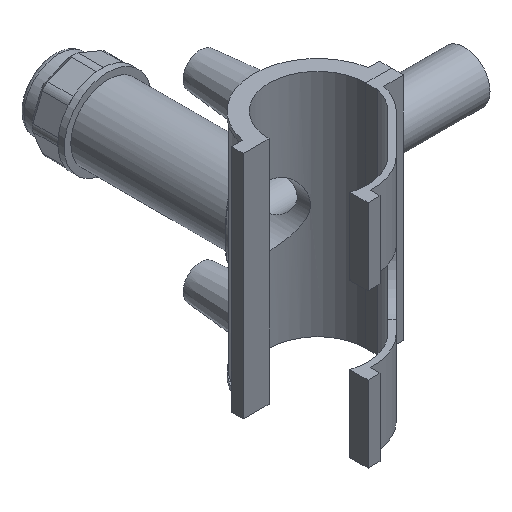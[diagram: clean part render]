
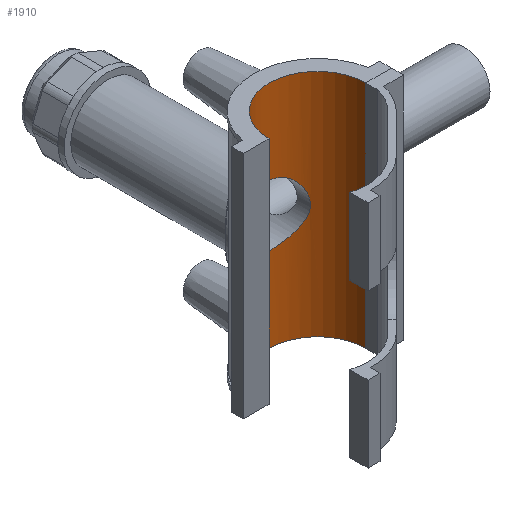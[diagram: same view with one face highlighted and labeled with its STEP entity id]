
A CAD part, isometric view. The second image highlights one B-rep face of the part: STEP entity #1910.
In plain terms, the highlighted cylindrical face has radius 21.05 mm (diameter 42.1 mm), a partial arc.
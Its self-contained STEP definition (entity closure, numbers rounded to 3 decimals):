
#114=FACE_BOUND('',#312,.T.);
#195=FACE_OUTER_BOUND('',#311,.T.);
#311=EDGE_LOOP('',(#1638,#1639,#1640,#1641));
#312=EDGE_LOOP('',(#1642,#1643));
#342=B_SPLINE_CURVE_WITH_KNOTS('',3,(#2735,#2736,#2737,#2738,#2739,#2740,
#2741,#2742,#2743,#2744,#2745,#2746,#2747,#2748,#2749,#2750,#2751,#2752,
#2753,#2754,#2755,#2756,#2757,#2758,#2759,#2760,#2761,#2762,#2763,#2764,
#2765,#2766,#2767,#2768,#2769,#2770,#2771,#2772),.UNSPECIFIED.,.F.,.F.,
(4,2,2,2,2,2,2,2,2,2,2,2,2,2,2,2,2,2,4),(0.,0.26,0.52,
1.039,1.554,1.812,2.07,2.327,
2.585,3.1,3.62,3.88,4.14,
4.399,4.659,5.179,5.694,5.952,
6.209),.UNSPECIFIED.);
#343=B_SPLINE_CURVE_WITH_KNOTS('',3,(#2773,#2774,#2775,#2776,#2777,#2778,
#2779,#2780,#2781,#2782,#2783,#2784,#2785,#2786),.UNSPECIFIED.,.F.,.F.,
(4,2,2,2,2,2,4),(6.209,6.467,6.725,7.24,
7.759,8.019,8.279),.UNSPECIFIED.);
#464=LINE('',#3661,#620);
#465=LINE('',#3665,#621);
#620=VECTOR('',#2567,10.);
#621=VECTOR('',#2570,10.);
#750=CIRCLE('',#2115,21.05);
#751=CIRCLE('',#2117,21.05);
#770=VERTEX_POINT('',#2732);
#771=VERTEX_POINT('',#2734);
#903=VERTEX_POINT('',#3655);
#905=VERTEX_POINT('',#3659);
#906=VERTEX_POINT('',#3663);
#907=VERTEX_POINT('',#3664);
#956=EDGE_CURVE('',#771,#770,#342,.T.);
#957=EDGE_CURVE('',#770,#771,#343,.T.);
#1158=EDGE_CURVE('',#903,#905,#464,.T.);
#1159=EDGE_CURVE('',#906,#907,#465,.T.);
#1165=EDGE_CURVE('',#903,#907,#750,.T.);
#1166=EDGE_CURVE('',#906,#905,#751,.T.);
#1638=ORIENTED_EDGE('',*,*,#1159,.T.);
#1639=ORIENTED_EDGE('',*,*,#1165,.F.);
#1640=ORIENTED_EDGE('',*,*,#1158,.T.);
#1641=ORIENTED_EDGE('',*,*,#1166,.F.);
#1642=ORIENTED_EDGE('',*,*,#956,.T.);
#1643=ORIENTED_EDGE('',*,*,#957,.T.);
#1822=CYLINDRICAL_SURFACE('',#2118,21.05);
#1910=ADVANCED_FACE('',(#195,#114),#1822,.F.);
#2115=AXIS2_PLACEMENT_3D('',#3674,#2578,#2579);
#2117=AXIS2_PLACEMENT_3D('',#3676,#2582,#2583);
#2118=AXIS2_PLACEMENT_3D('',#3679,#2586,#2587);
#2567=DIRECTION('',(0.,0.,-1.));
#2570=DIRECTION('',(0.,0.,1.));
#2578=DIRECTION('center_axis',(0.,0.,-1.));
#2579=DIRECTION('ref_axis',(-1.,0.,0.));
#2582=DIRECTION('center_axis',(0.,0.,1.));
#2583=DIRECTION('ref_axis',(-1.,0.,0.));
#2586=DIRECTION('center_axis',(0.,0.,1.));
#2587=DIRECTION('ref_axis',(-1.,0.,0.));
#2732=CARTESIAN_POINT('',(0.,21.05,-13.262));
#2734=CARTESIAN_POINT('',(-13.262,16.347,0.));
#2735=CARTESIAN_POINT('Ctrl Pts',(-13.262,16.347,0.));
#2736=CARTESIAN_POINT('Ctrl Pts',(-13.262,16.347,0.866));
#2737=CARTESIAN_POINT('Ctrl Pts',(-13.175,16.418,1.748));
#2738=CARTESIAN_POINT('Ctrl Pts',(-12.827,16.692,3.483));
#2739=CARTESIAN_POINT('Ctrl Pts',(-12.564,16.895,4.335));
#2740=CARTESIAN_POINT('Ctrl Pts',(-11.541,17.624,6.766));
#2741=CARTESIAN_POINT('Ctrl Pts',(-10.533,18.271,8.222));
#2742=CARTESIAN_POINT('Ctrl Pts',(-8.232,19.416,10.523));
#2743=CARTESIAN_POINT('Ctrl Pts',(-6.773,20.001,11.538));
#2744=CARTESIAN_POINT('Ctrl Pts',(-4.331,20.617,12.565));
#2745=CARTESIAN_POINT('Ctrl Pts',(-3.476,20.78,12.829));
#2746=CARTESIAN_POINT('Ctrl Pts',(-1.739,20.996,13.177));
#2747=CARTESIAN_POINT('Ctrl Pts',(-0.859,21.05,13.262));
#2748=CARTESIAN_POINT('Ctrl Pts',(0.859,21.05,13.262));
#2749=CARTESIAN_POINT('Ctrl Pts',(1.739,20.996,13.177));
#2750=CARTESIAN_POINT('Ctrl Pts',(3.476,20.78,12.829));
#2751=CARTESIAN_POINT('Ctrl Pts',(4.331,20.617,12.565));
#2752=CARTESIAN_POINT('Ctrl Pts',(6.773,20.001,11.538));
#2753=CARTESIAN_POINT('Ctrl Pts',(8.232,19.416,10.523));
#2754=CARTESIAN_POINT('Ctrl Pts',(10.533,18.271,8.222));
#2755=CARTESIAN_POINT('Ctrl Pts',(11.541,17.624,6.766));
#2756=CARTESIAN_POINT('Ctrl Pts',(12.564,16.895,4.335));
#2757=CARTESIAN_POINT('Ctrl Pts',(12.827,16.692,3.483));
#2758=CARTESIAN_POINT('Ctrl Pts',(13.175,16.418,1.748));
#2759=CARTESIAN_POINT('Ctrl Pts',(13.262,16.347,0.866));
#2760=CARTESIAN_POINT('Ctrl Pts',(13.262,16.347,-0.866));
#2761=CARTESIAN_POINT('Ctrl Pts',(13.175,16.418,-1.748));
#2762=CARTESIAN_POINT('Ctrl Pts',(12.827,16.692,-3.483));
#2763=CARTESIAN_POINT('Ctrl Pts',(12.564,16.895,-4.335));
#2764=CARTESIAN_POINT('Ctrl Pts',(11.541,17.624,-6.766));
#2765=CARTESIAN_POINT('Ctrl Pts',(10.533,18.271,-8.222));
#2766=CARTESIAN_POINT('Ctrl Pts',(8.232,19.416,-10.523));
#2767=CARTESIAN_POINT('Ctrl Pts',(6.773,20.001,-11.538));
#2768=CARTESIAN_POINT('Ctrl Pts',(4.331,20.617,-12.565));
#2769=CARTESIAN_POINT('Ctrl Pts',(3.476,20.78,-12.829));
#2770=CARTESIAN_POINT('Ctrl Pts',(1.739,20.996,-13.177));
#2771=CARTESIAN_POINT('Ctrl Pts',(0.859,21.05,-13.262));
#2772=CARTESIAN_POINT('Ctrl Pts',(0.,21.05,-13.262));
#2773=CARTESIAN_POINT('Ctrl Pts',(0.,21.05,-13.262));
#2774=CARTESIAN_POINT('Ctrl Pts',(-0.859,21.05,-13.262));
#2775=CARTESIAN_POINT('Ctrl Pts',(-1.739,20.996,-13.177));
#2776=CARTESIAN_POINT('Ctrl Pts',(-3.476,20.78,-12.829));
#2777=CARTESIAN_POINT('Ctrl Pts',(-4.331,20.617,-12.565));
#2778=CARTESIAN_POINT('Ctrl Pts',(-6.773,20.001,-11.538));
#2779=CARTESIAN_POINT('Ctrl Pts',(-8.232,19.416,-10.523));
#2780=CARTESIAN_POINT('Ctrl Pts',(-10.533,18.271,-8.222));
#2781=CARTESIAN_POINT('Ctrl Pts',(-11.541,17.624,-6.766));
#2782=CARTESIAN_POINT('Ctrl Pts',(-12.564,16.895,-4.335));
#2783=CARTESIAN_POINT('Ctrl Pts',(-12.827,16.692,-3.483));
#2784=CARTESIAN_POINT('Ctrl Pts',(-13.175,16.418,-1.748));
#2785=CARTESIAN_POINT('Ctrl Pts',(-13.262,16.347,-0.866));
#2786=CARTESIAN_POINT('Ctrl Pts',(-13.262,16.347,0.));
#3655=CARTESIAN_POINT('',(-21.05,0.05,50.038));
#3659=CARTESIAN_POINT('',(-21.05,0.05,-50.038));
#3661=CARTESIAN_POINT('',(-21.05,0.05,0.));
#3663=CARTESIAN_POINT('',(21.05,0.05,-50.038));
#3664=CARTESIAN_POINT('',(21.05,0.05,50.038));
#3665=CARTESIAN_POINT('',(21.05,0.05,0.));
#3674=CARTESIAN_POINT('Origin',(0.,0.,50.038));
#3676=CARTESIAN_POINT('Origin',(0.,0.,-50.038));
#3679=CARTESIAN_POINT('Origin',(0.,0.,0.));
